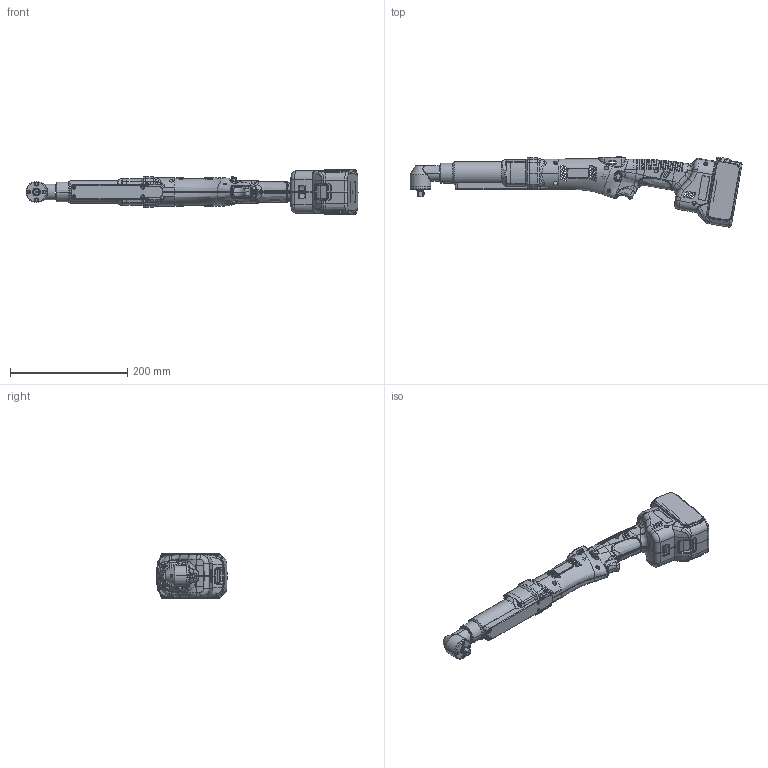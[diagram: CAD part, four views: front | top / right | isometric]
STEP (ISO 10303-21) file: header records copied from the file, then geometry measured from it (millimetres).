
FILE_DESCRIPTION (( 'STEP AP214' ), '1' );
FILE_NAME ('ABN-CTA30_ _.STEP', '2018-03-13T15:16:58', ( 'AIMCO' ), ( '' ), 'SwSTEP 2.0', 'SolidWorks 2017', '' );
FILE_SCHEMA (( 'AUTOMOTIVE_DESIGN' ));
Length unit declared in the file: inch
Products named in the file (1): ABN-CTA30_ _
Bounding box: 565.16 x 119.45 x 75.18 mm (x, y, z)
Surface area: 190035.5 mm2 (no closed solid volume)
Topology: 0 solids, 63 shells, 1862 faces, 6831 edges, 4786 vertices
Faces by surface type: bspline 733, plane 417, cylinder 334, cone 285, torus 87, sphere 6
Entity records: 229750 total; most frequent: CARTESIAN_POINT 158056, ORIENTED_EDGE 10513, DIRECTION 7093, EDGE_CURVE 6825, VERTEX_POINT 4786, B_SPLINE_CURVE_WITH_KNOTS 3263, AXIS2_PLACEMENT_3D 2589, EDGE_LOOP 1983
